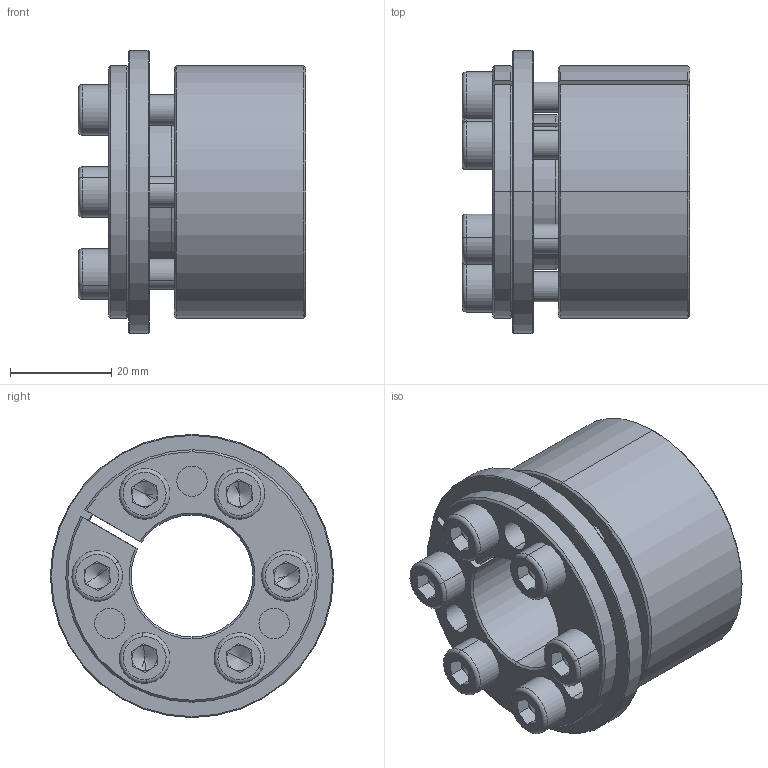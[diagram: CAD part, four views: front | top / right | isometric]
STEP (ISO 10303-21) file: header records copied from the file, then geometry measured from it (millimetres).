
FILE_DESCRIPTION (( 'STEP AP214' ), '1' );
FILE_NAME ('H5×°ÅäÌå24-50.STEP', '2022-07-26T01:58:43', ( '' ), ( '' ), 'SwSTEP 2.0', 'SolidWorks 2022', '' );
FILE_SCHEMA (( 'AUTOMOTIVE_DESIGN' ));
Length unit declared in the file: millimetre
Products named in the file (1): H5蚾饜极24-50
Bounding box: 45 x 56 x 56 mm (x, y, z)
Volume: 53079 mm3; surface area: 22655.3 mm2
Topology: 1 solids, 1 shells, 253 faces, 619 edges, 380 vertices
Faces by surface type: plane 100, cylinder 73, cone 68, torus 12
Entity records: 7478 total; most frequent: DIRECTION 1382, CARTESIAN_POINT 1313, ORIENTED_EDGE 1214, EDGE_CURVE 607, AXIS2_PLACEMENT_3D 545, VERTEX_POINT 380, EDGE_LOOP 297, VECTOR 292
